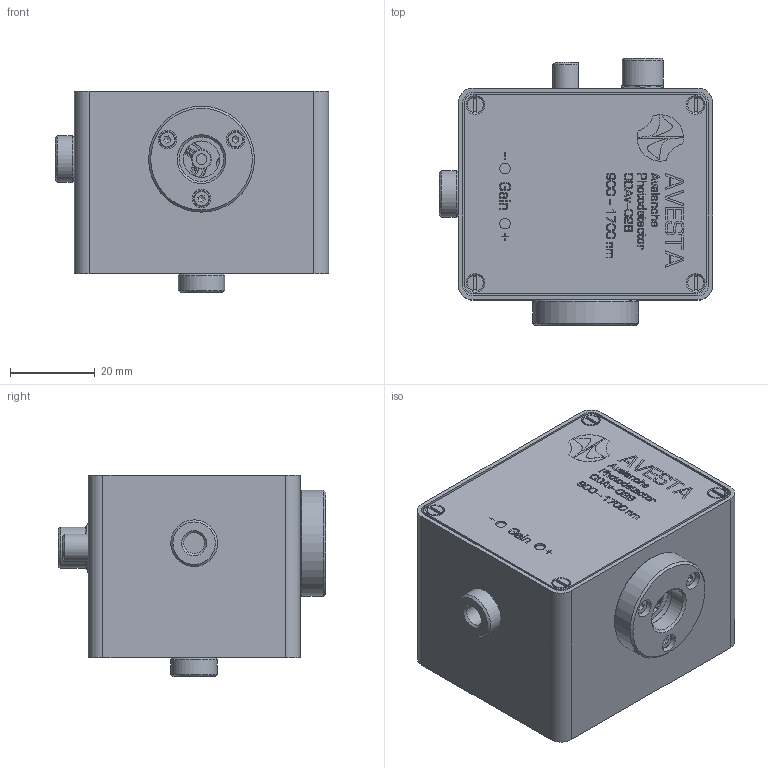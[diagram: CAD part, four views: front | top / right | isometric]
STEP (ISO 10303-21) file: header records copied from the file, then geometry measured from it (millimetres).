
FILE_DESCRIPTION(/* description */ (''),/* implementation_level */ '2;1');
FILE_NAME(/* name */ 'Y:\IvDoronin\- Фотоприемники -\- Модели -\3. Лавинные фотоприемники\ЛФП1-18.000-01 СБ Лавинный фотоприемник ODAv-02B_Shrinkwrap.stp',/* time_stamp */ '2019-09-13T18:43:20+03:00',/* author */ ('svlad'),/* organization */ (''),/* preprocessor_version */ 'ST-DEVELOPER v17',/* originating_system */ 'Autodesk Inventor 2019',/* authorisation */ '');
FILE_SCHEMA (('AUTOMOTIVE_DESIGN { 1 0 10303 214 3 1 1 }'));
Products named in the file (1): ЛФП1-18.000-01 СБ Лавинный 
фотоприемник ODAv-02B_Shri
nkwrap
Bounding box: 64.5 x 63 x 47.5 mm (x, y, z)
Volume: 130569.6 mm3; surface area: 20038.3 mm2
Topology: 1 solids, 5 shells, 1363 faces, 3639 edges, 2438 vertices
Faces by surface type: plane 780, bspline 365, cylinder 139, cone 49, torus 26, sphere 4
Full cylindrical faces by diameter (mm): 0.8 x4, 2.5 x3, 2.95 x1, 3 x1, 3.2 x8, 3.8 x3, 4 x2, 4.4 x3, 4.7 x1, 4.917 x2, 5 x2, 7 x2, 7.4 x1, 8.1 x2, 9.7 x1, 10.2 x1, 10.5 x1, 11 x4, 11.5 x2, 25 x1
Entity records: 50522 total; most frequent: CARTESIAN_POINT 17450, ORIENTED_EDGE 7256, DIRECTION 5210, EDGE_CURVE 3630, VERTEX_POINT 2436, LINE 2150, VECTOR 2150, EDGE_LOOP 1538
